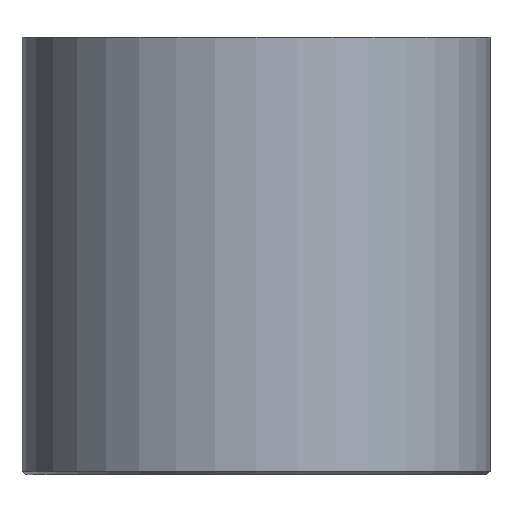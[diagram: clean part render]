
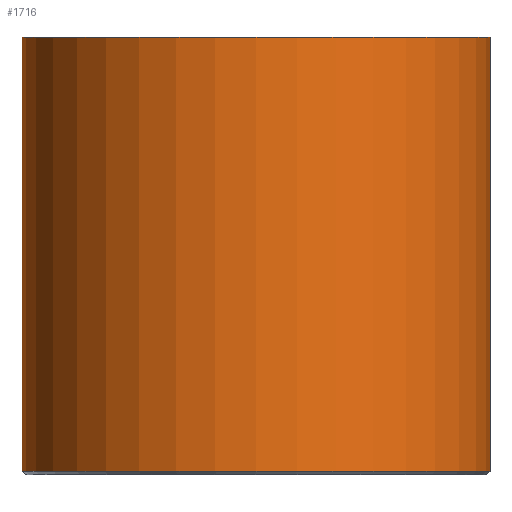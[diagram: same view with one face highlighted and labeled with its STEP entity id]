
A CAD part, front view. The second image highlights one B-rep face of the part: STEP entity #1716.
In plain terms, the highlighted cylindrical face has radius 7.874 mm (diameter 15.748 mm), a partial arc.
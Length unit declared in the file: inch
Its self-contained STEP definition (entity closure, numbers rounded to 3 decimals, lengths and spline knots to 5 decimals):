
#213=VECTOR('',#2447,1.);
#214=VECTOR('',#2448,1.);
#273=LINE('',#2967,#213);
#274=LINE('',#2968,#214);
#390=VERTEX_POINT('',#2890);
#391=VERTEX_POINT('',#2892);
#417=VERTEX_POINT('',#2965);
#418=VERTEX_POINT('',#2966);
#585=CIRCLE('',#1963,0.31);
#586=CIRCLE('',#1964,0.31);
#796=EDGE_CURVE('',#417,#391,#273,.T.);
#797=EDGE_CURVE('',#418,#390,#274,.T.);
#820=EDGE_CURVE('',#418,#417,#585,.T.);
#821=EDGE_CURVE('',#390,#391,#586,.T.);
#1194=ORIENTED_EDGE('',*,*,#796,.F.);
#1195=ORIENTED_EDGE('',*,*,#820,.F.);
#1196=ORIENTED_EDGE('',*,*,#797,.T.);
#1197=ORIENTED_EDGE('',*,*,#821,.T.);
#1434=EDGE_LOOP('',(#1194,#1195,#1196,#1197));
#1576=FACE_BOUND('',#1434,.T.);
#1716=ADVANCED_FACE('',(#1576),#3104,.T.);
#1962=AXIS2_PLACEMENT_3D('',#3010,#2500,#2501);
#1963=AXIS2_PLACEMENT_3D('',#3011,#2502,#2503);
#1964=AXIS2_PLACEMENT_3D('',#3012,#2504,#2505);
#2447=DIRECTION('',(0.,0.,-1.));
#2448=DIRECTION('',(0.,0.,-1.));
#2500=DIRECTION('',(0.,0.,-1.));
#2501=DIRECTION('',(-0.31,0.,0.));
#2502=DIRECTION('',(0.,0.,1.));
#2503=DIRECTION('',(0.31,0.,0.));
#2504=DIRECTION('',(0.,0.,1.));
#2505=DIRECTION('',(0.31,0.,0.));
#2890=CARTESIAN_POINT('',(-0.31,0.,-0.285));
#2892=CARTESIAN_POINT('',(0.31,0.,-0.285));
#2965=CARTESIAN_POINT('',(0.31,0.,0.29));
#2966=CARTESIAN_POINT('',(-0.31,0.,0.29));
#2967=CARTESIAN_POINT('',(0.31,0.,0.29));
#2968=CARTESIAN_POINT('',(-0.31,0.,0.29));
#3010=CARTESIAN_POINT('',(0.,0.,0.29));
#3011=CARTESIAN_POINT('',(0.,0.,0.29));
#3012=CARTESIAN_POINT('',(0.,0.,-0.285));
#3104=CYLINDRICAL_SURFACE('',#1962,0.31);
